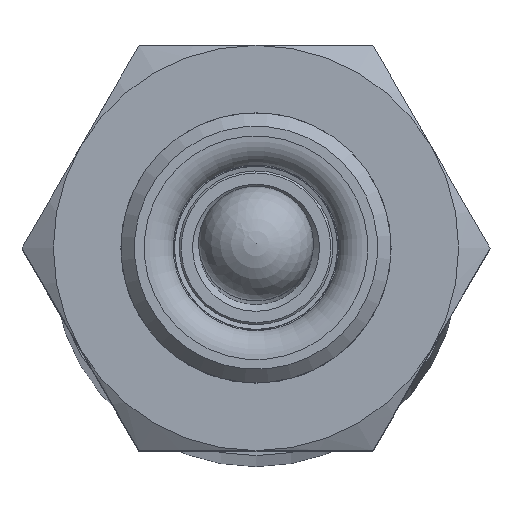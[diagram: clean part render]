
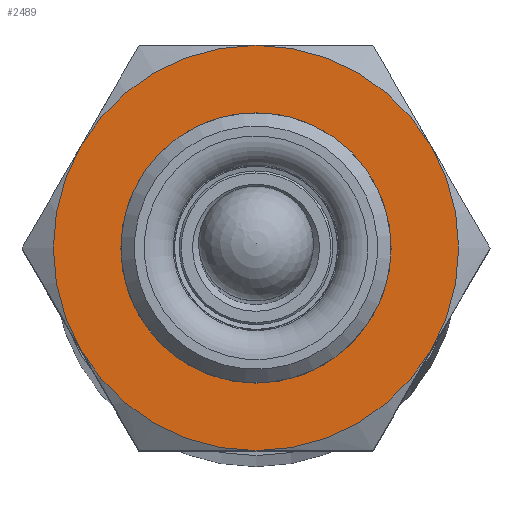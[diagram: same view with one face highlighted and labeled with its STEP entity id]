
A CAD part, top view. The second image highlights one B-rep face of the part: STEP entity #2489.
In plain terms, the highlighted planar face has unit normal (0, 0, 1) as drawn and (-1, 0, 0) by its records, which use the part's own axes.
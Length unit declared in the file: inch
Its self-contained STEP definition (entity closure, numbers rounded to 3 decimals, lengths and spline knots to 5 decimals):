
#183=FACE_BOUND('',#595,.T.);
#244=PLANE('',#2876);
#392=FACE_OUTER_BOUND('',#594,.T.);
#594=EDGE_LOOP('',(#2080,#2081,#2082,#2083,#2084,#2085));
#595=EDGE_LOOP('',(#2086));
#1000=CIRCLE('',#2871,0.25006);
#1004=CIRCLE('',#2877,0.375);
#1005=CIRCLE('',#2878,0.375);
#1006=CIRCLE('',#2879,0.375);
#1007=CIRCLE('',#2880,0.375);
#1008=CIRCLE('',#2881,0.375);
#1009=CIRCLE('',#2882,0.375);
#1194=VERTEX_POINT('',#4662);
#1198=VERTEX_POINT('',#4674);
#1199=VERTEX_POINT('',#4675);
#1200=VERTEX_POINT('',#4677);
#1201=VERTEX_POINT('',#4679);
#1202=VERTEX_POINT('',#4681);
#1203=VERTEX_POINT('',#4683);
#1489=EDGE_CURVE('',#1194,#1194,#1000,.T.);
#1495=EDGE_CURVE('',#1198,#1199,#1004,.T.);
#1496=EDGE_CURVE('',#1199,#1200,#1005,.T.);
#1497=EDGE_CURVE('',#1200,#1201,#1006,.T.);
#1498=EDGE_CURVE('',#1201,#1202,#1007,.T.);
#1499=EDGE_CURVE('',#1202,#1203,#1008,.T.);
#1500=EDGE_CURVE('',#1203,#1198,#1009,.T.);
#2080=ORIENTED_EDGE('',*,*,#1495,.T.);
#2081=ORIENTED_EDGE('',*,*,#1496,.T.);
#2082=ORIENTED_EDGE('',*,*,#1497,.T.);
#2083=ORIENTED_EDGE('',*,*,#1498,.T.);
#2084=ORIENTED_EDGE('',*,*,#1499,.T.);
#2085=ORIENTED_EDGE('',*,*,#1500,.T.);
#2086=ORIENTED_EDGE('',*,*,#1489,.F.);
#2489=ADVANCED_FACE('',(#392,#183),#244,.F.);
#2871=AXIS2_PLACEMENT_3D('',#4663,#3602,#3603);
#2876=AXIS2_PLACEMENT_3D('',#4673,#3614,#3615);
#2877=AXIS2_PLACEMENT_3D('',#4676,#3616,#3617);
#2878=AXIS2_PLACEMENT_3D('',#4678,#3618,#3619);
#2879=AXIS2_PLACEMENT_3D('',#4680,#3620,#3621);
#2880=AXIS2_PLACEMENT_3D('',#4682,#3622,#3623);
#2881=AXIS2_PLACEMENT_3D('',#4684,#3624,#3625);
#2882=AXIS2_PLACEMENT_3D('',#4685,#3626,#3627);
#3602=DIRECTION('center_axis',(-1.,0.,0.));
#3603=DIRECTION('ref_axis',(0.,0.,-1.));
#3614=DIRECTION('center_axis',(1.,0.,0.));
#3615=DIRECTION('ref_axis',(0.,0.,-1.));
#3616=DIRECTION('center_axis',(-1.,0.,0.));
#3617=DIRECTION('ref_axis',(0.,1.,0.));
#3618=DIRECTION('center_axis',(-1.,0.,0.));
#3619=DIRECTION('ref_axis',(0.,1.,0.));
#3620=DIRECTION('center_axis',(-1.,0.,0.));
#3621=DIRECTION('ref_axis',(0.,1.,0.));
#3622=DIRECTION('center_axis',(-1.,0.,0.));
#3623=DIRECTION('ref_axis',(0.,1.,0.));
#3624=DIRECTION('center_axis',(-1.,0.,0.));
#3625=DIRECTION('ref_axis',(0.,1.,0.));
#3626=DIRECTION('center_axis',(-1.,0.,0.));
#3627=DIRECTION('ref_axis',(0.,1.,0.));
#4662=CARTESIAN_POINT('',(0.,0.,0.25006));
#4663=CARTESIAN_POINT('Origin',(0.,0.,0.));
#4673=CARTESIAN_POINT('Origin',(0.,0.,0.));
#4674=CARTESIAN_POINT('',(0.,-0.32476,-0.1875));
#4675=CARTESIAN_POINT('',(0.,-0.32476,0.1875));
#4676=CARTESIAN_POINT('Origin',(0.,0.,0.));
#4677=CARTESIAN_POINT('',(0.,0.,0.375));
#4678=CARTESIAN_POINT('Origin',(0.,0.,0.));
#4679=CARTESIAN_POINT('',(0.,0.32476,0.1875));
#4680=CARTESIAN_POINT('Origin',(0.,0.,0.));
#4681=CARTESIAN_POINT('',(0.,0.32476,-0.1875));
#4682=CARTESIAN_POINT('Origin',(0.,0.,0.));
#4683=CARTESIAN_POINT('',(0.,0.,-0.375));
#4684=CARTESIAN_POINT('Origin',(0.,0.,0.));
#4685=CARTESIAN_POINT('Origin',(0.,0.,0.));
